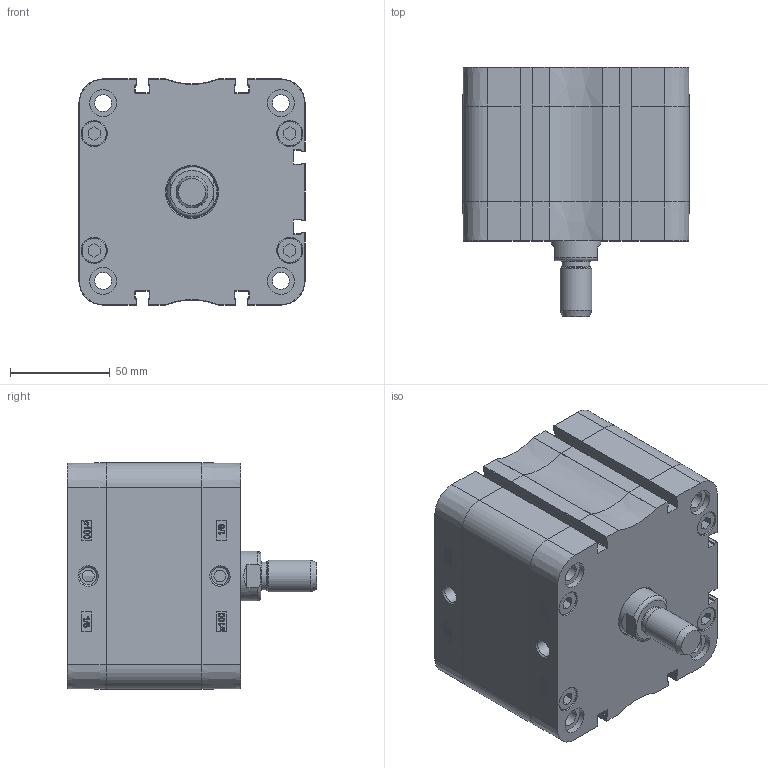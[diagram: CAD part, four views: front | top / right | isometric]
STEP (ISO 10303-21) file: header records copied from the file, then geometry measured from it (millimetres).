
FILE_DESCRIPTION((''),'2;1');
FILE_NAME('T:\Archivio Inventor\- CATALOGHI 2012\SERIE P - NUOVA\PDM\PDM100\PDM100.---.GS.M\PDM100.020.GS.M.stp','2013-02-05T11:38:12',('Administrator'),(''),'Autodesk Inventor 2012','Autodesk Inventor 2012','');
FILE_SCHEMA(('CONFIG_CONTROL_DESIGN'));
Length unit declared in the file: millimetre
Products named in the file (1): PDM100.020.GS.M
Bounding box: 113.3 x 125 x 113.3 mm (x, y, z)
Volume: 563480.3 mm3; surface area: 156097.1 mm2
Topology: 1 solids, 5 shells, 908 faces, 2136 edges, 1312 vertices
Faces by surface type: plane 371, bspline 226, cylinder 148, cone 81, torus 58, sphere 24
Full cylindrical faces by diameter (mm): 6 x2, 8.3 x4, 8.376 x8, 8.566 x2, 9.976 x4, 12 x1, 12.7 x8, 13.1 x8, 13.5 x8, 14 x1, 16 x1, 25 x1, 25.5 x1, 100 x1, 103.5 x1, 103.7 x1
Entity records: 29561 total; most frequent: CARTESIAN_POINT 9693, ORIENTED_EDGE 4030, DIRECTION 3400, EDGE_CURVE 2015, VERTEX_POINT 1291, AXIS2_PLACEMENT_3D 1208, EDGE_LOOP 1088, VECTOR 984
